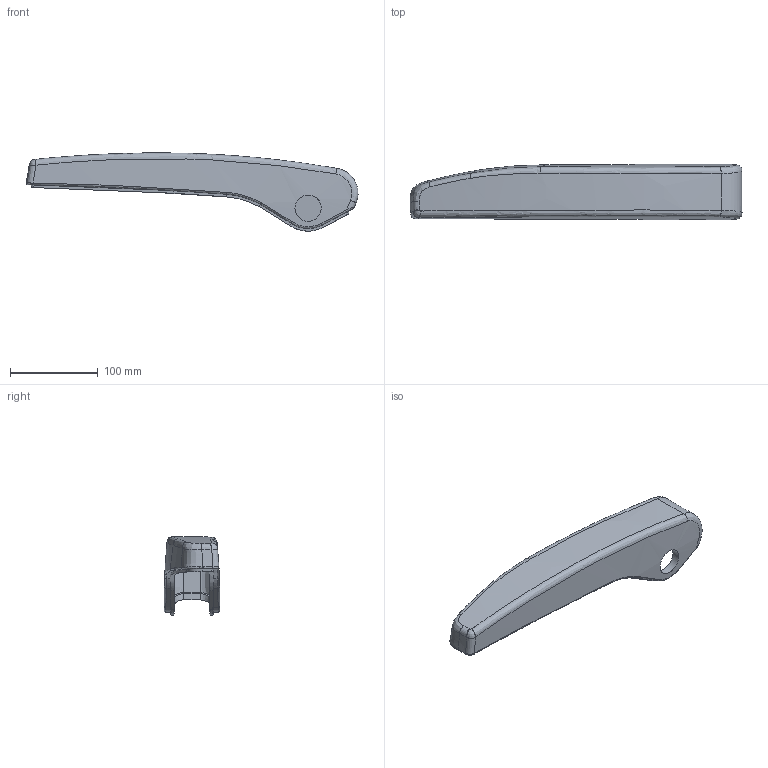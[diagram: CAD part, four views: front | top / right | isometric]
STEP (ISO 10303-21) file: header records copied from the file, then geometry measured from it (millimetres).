
FILE_DESCRIPTION(('CATIA V5 STEP Exchange'),'2;1');
FILE_NAME('F:\福田A6\14-新扶手\3D\新建文件夹\SHT0017849-20250113.stp','2025-01-13T01:51:39+00:00',('none'),('none'),'CATIA Version 5 Release 20 GA (IN-10)','CATIA V5 STEP AP203','none');
FILE_SCHEMA(('CONFIG_CONTROL_DESIGN'));
Length unit declared in the file: millimetre
Products named in the file (1): SHT0017849
Bounding box: 378.74 x 63.81 x 89.32 mm (x, y, z)
Volume: 495177 mm3; surface area: 109329.7 mm2
Topology: 1 solids, 1 shells, 141 faces, 592 edges, 453 vertices
Faces by surface type: bspline 129, cylinder 8, plane 4
Entity records: 22807 total; most frequent: CARTESIAN_POINT 19529, ORIENTED_EDGE 1184, EDGE_CURVE 592, VERTEX_POINT 453, B_SPLINE_CURVE_WITH_KNOTS 410, EDGE_LOOP 143, ADVANCED_FACE 141, FACE_OUTER_BOUND 141
